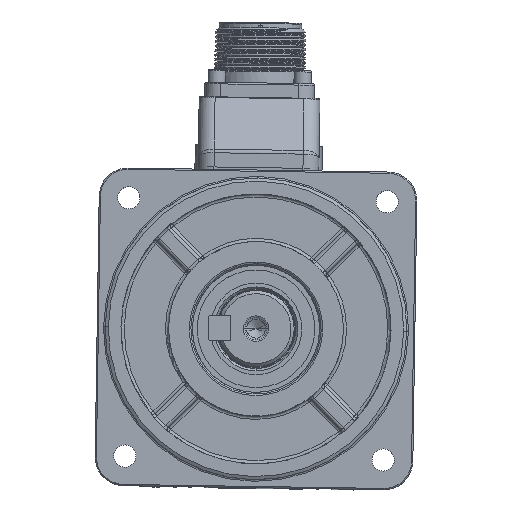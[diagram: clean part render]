
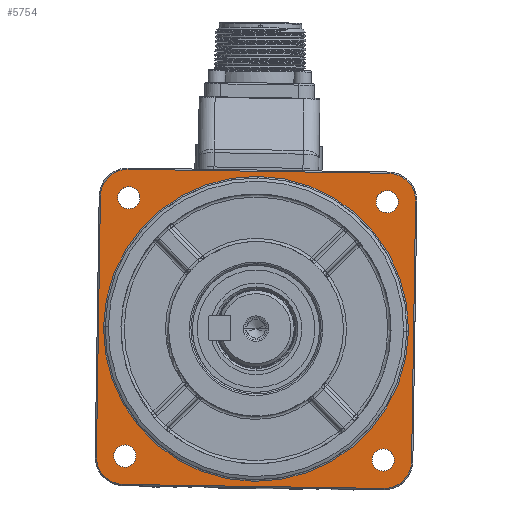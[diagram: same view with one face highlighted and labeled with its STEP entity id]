
A CAD part, top view. The second image highlights one B-rep face of the part: STEP entity #5754.
In plain terms, the highlighted planar face has unit normal (0, 0, 1) as drawn and (0, 1, 0) by its records, which use the part's own axes.
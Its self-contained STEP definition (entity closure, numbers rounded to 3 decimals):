
#150=CARTESIAN_POINT('',(0.,0.,0.));
#151=DIRECTION('',(0.,-1.,0.));
#152=DIRECTION('',(-1.,0.,0.006));
#153=AXIS2_PLACEMENT_3D('',#150,#151,#152);
#170=CARTESIAN_POINT('',(0.,0.,0.));
#171=DIRECTION('',(0.,-1.,0.));
#172=DIRECTION('',(1.,0.,-0.006));
#173=AXIS2_PLACEMENT_3D('',#170,#171,#172);
#175=CARTESIAN_POINT('',(-41.,0.,-41.));
#176=DIRECTION('',(0.,-1.,0.));
#177=DIRECTION('',(-1.,0.,0.));
#178=AXIS2_PLACEMENT_3D('',#175,#176,#177);
#180=CARTESIAN_POINT('',(41.,0.,-41.));
#181=DIRECTION('',(0.,-1.,0.));
#182=DIRECTION('',(0.,0.,-1.));
#183=AXIS2_PLACEMENT_3D('',#180,#181,#182);
#185=CARTESIAN_POINT('',(41.,0.,41.));
#186=DIRECTION('',(0.,-1.,0.));
#187=DIRECTION('',(1.,0.,0.));
#188=AXIS2_PLACEMENT_3D('',#185,#186,#187);
#190=CARTESIAN_POINT('',(-41.,0.,41.));
#191=DIRECTION('',(0.,-1.,0.));
#192=DIRECTION('',(0.,0.,1.));
#193=AXIS2_PLACEMENT_3D('',#190,#191,#192);
#195=CARTESIAN_POINT('',(-40.659,0.,-40.659));
#196=DIRECTION('',(0.,1.,0.));
#197=DIRECTION('',(0.,0.,1.));
#198=AXIS2_PLACEMENT_3D('',#195,#196,#197);
#200=CARTESIAN_POINT('',(-40.659,0.,-40.659));
#201=DIRECTION('',(0.,1.,0.));
#202=DIRECTION('',(0.,0.,-1.));
#203=AXIS2_PLACEMENT_3D('',#200,#201,#202);
#205=CARTESIAN_POINT('',(-40.659,0.,40.659));
#206=DIRECTION('',(0.,1.,0.));
#207=DIRECTION('',(1.,0.,0.));
#208=AXIS2_PLACEMENT_3D('',#205,#206,#207);
#210=CARTESIAN_POINT('',(-40.659,0.,40.659));
#211=DIRECTION('',(0.,1.,0.));
#212=DIRECTION('',(-1.,0.,0.));
#213=AXIS2_PLACEMENT_3D('',#210,#211,#212);
#215=CARTESIAN_POINT('',(40.659,0.,40.659));
#216=DIRECTION('',(0.,1.,0.));
#217=DIRECTION('',(0.,0.,-1.));
#218=AXIS2_PLACEMENT_3D('',#215,#216,#217);
#220=CARTESIAN_POINT('',(40.659,0.,40.659));
#221=DIRECTION('',(0.,1.,0.));
#222=DIRECTION('',(0.,0.,1.));
#223=AXIS2_PLACEMENT_3D('',#220,#221,#222);
#225=CARTESIAN_POINT('',(0.,0.,0.));
#226=DIRECTION('',(0.,1.,0.));
#227=DIRECTION('',(-1.,0.,0.006));
#228=AXIS2_PLACEMENT_3D('',#225,#226,#227);
#230=CARTESIAN_POINT('',(0.,0.,0.));
#231=DIRECTION('',(0.,1.,0.));
#232=DIRECTION('',(1.,0.,-0.006));
#233=AXIS2_PLACEMENT_3D('',#230,#231,#232);
#235=CARTESIAN_POINT('',(40.659,0.,-40.659));
#236=DIRECTION('',(0.,1.,0.));
#237=DIRECTION('',(-1.,0.,0.));
#238=AXIS2_PLACEMENT_3D('',#235,#236,#237);
#240=CARTESIAN_POINT('',(40.659,0.,-40.659));
#241=DIRECTION('',(0.,1.,0.));
#242=DIRECTION('',(1.,0.,0.));
#243=AXIS2_PLACEMENT_3D('',#240,#241,#242);
#254=DIRECTION('',(0.,0.,1.));
#255=VECTOR('',#254,82.);
#256=CARTESIAN_POINT('',(-49.6,0.,
-41.));
#257=LINE('',#256,#255);
#271=DIRECTION('',(1.,0.,0.));
#272=VECTOR('',#271,82.);
#273=CARTESIAN_POINT('',(-41.,0.,
49.6));
#274=LINE('',#273,#272);
#288=DIRECTION('',(0.,0.,-1.));
#289=VECTOR('',#288,82.);
#290=CARTESIAN_POINT('',(49.6,0.,41.));
#291=LINE('',#290,#289);
#305=DIRECTION('',(-1.,0.,0.));
#306=VECTOR('',#305,82.);
#307=CARTESIAN_POINT('',(41.,0.,
-49.6));
#308=LINE('',#307,#306);
#4462=CARTESIAN_POINT('',(48.,0.,0.));
#4463=VERTEX_POINT('',#4462);
#4464=CARTESIAN_POINT('',(-47.999,0.,0.3));
#4465=VERTEX_POINT('',#4464);
#4466=CARTESIAN_POINT('',(-48.,0.,0.));
#4467=VERTEX_POINT('',#4466);
#4468=CARTESIAN_POINT('',(47.999,0.,-0.3));
#4469=VERTEX_POINT('',#4468);
#4470=CARTESIAN_POINT('',(-49.6,0.,-41.));
#4471=CARTESIAN_POINT('',(-41.,0.,-49.6));
#4472=VERTEX_POINT('',#4470);
#4473=VERTEX_POINT('',#4471);
#4474=CARTESIAN_POINT('',(41.,0.,
-49.6));
#4475=VERTEX_POINT('',#4474);
#4476=CARTESIAN_POINT('',(49.6,0.,-41.));
#4477=VERTEX_POINT('',#4476);
#4478=CARTESIAN_POINT('',(49.6,0.,
41.));
#4479=VERTEX_POINT('',#4478);
#4480=CARTESIAN_POINT('',(41.,0.,49.6));
#4481=VERTEX_POINT('',#4480);
#4482=CARTESIAN_POINT('',(-41.,0.,
49.6));
#4483=VERTEX_POINT('',#4482);
#4484=CARTESIAN_POINT('',(-49.6,0.,41.));
#4485=VERTEX_POINT('',#4484);
#4486=CARTESIAN_POINT('',(-40.659,0.,-37.159));
#4487=CARTESIAN_POINT('',(-40.659,0.,-44.159));
#4488=VERTEX_POINT('',#4486);
#4489=VERTEX_POINT('',#4487);
#4490=CARTESIAN_POINT('',(-37.159,0.,40.659));
#4491=CARTESIAN_POINT('',(-44.159,0.,40.659));
#4492=VERTEX_POINT('',#4490);
#4493=VERTEX_POINT('',#4491);
#4494=CARTESIAN_POINT('',(40.659,0.,37.159));
#4495=CARTESIAN_POINT('',(40.659,0.,44.159));
#4496=VERTEX_POINT('',#4494);
#4497=VERTEX_POINT('',#4495);
#4498=CARTESIAN_POINT('',(37.159,0.,-40.659));
#4499=CARTESIAN_POINT('',(44.159,0.,-40.659));
#4500=VERTEX_POINT('',#4498);
#4501=VERTEX_POINT('',#4499);
#5701=CARTESIAN_POINT('',(0.,0.,0.));
#5702=DIRECTION('',(0.,-1.,0.));
#5703=DIRECTION('',(-1.,0.,0.));
#5704=AXIS2_PLACEMENT_3D('',#5701,#5702,#5703);
#5705=PLANE('',#5704);
#5707=ORIENTED_EDGE('',*,*,#5706,.T.);
#5709=ORIENTED_EDGE('',*,*,#5708,.F.);
#5711=ORIENTED_EDGE('',*,*,#5710,.T.);
#5713=ORIENTED_EDGE('',*,*,#5712,.F.);
#5715=ORIENTED_EDGE('',*,*,#5714,.T.);
#5717=ORIENTED_EDGE('',*,*,#5716,.F.);
#5719=ORIENTED_EDGE('',*,*,#5718,.T.);
#5721=ORIENTED_EDGE('',*,*,#5720,.F.);
#5722=EDGE_LOOP('',(#5707,#5709,#5711,#5713,#5715,#5717,#5719,#5721));
#5723=FACE_OUTER_BOUND('',#5722,.F.);
#5725=ORIENTED_EDGE('',*,*,#5724,.T.);
#5727=ORIENTED_EDGE('',*,*,#5726,.T.);
#5728=EDGE_LOOP('',(#5725,#5727));
#5729=FACE_BOUND('',#5728,.F.);
#5731=ORIENTED_EDGE('',*,*,#5730,.T.);
#5733=ORIENTED_EDGE('',*,*,#5732,.T.);
#5734=EDGE_LOOP('',(#5731,#5733));
#5735=FACE_BOUND('',#5734,.F.);
#5737=ORIENTED_EDGE('',*,*,#5736,.T.);
#5739=ORIENTED_EDGE('',*,*,#5738,.T.);
#5740=EDGE_LOOP('',(#5737,#5739));
#5741=FACE_BOUND('',#5740,.F.);
#5742=ORIENTED_EDGE('',*,*,#5678,.F.);
#5743=ORIENTED_EDGE('',*,*,#5676,.T.);
#5744=ORIENTED_EDGE('',*,*,#5695,.F.);
#5745=ORIENTED_EDGE('',*,*,#5693,.T.);
#5746=EDGE_LOOP('',(#5742,#5743,#5744,#5745));
#5747=FACE_BOUND('',#5746,.F.);
#5749=ORIENTED_EDGE('',*,*,#5748,.T.);
#5751=ORIENTED_EDGE('',*,*,#5750,.T.);
#5752=EDGE_LOOP('',(#5749,#5751));
#5753=FACE_BOUND('',#5752,.F.);
#5754=ADVANCED_FACE('',(#5723,#5729,#5735,#5741,#5747,#5753),#5705,.F.);
#154=CIRCLE('',#153,48.);
#174=CIRCLE('',#173,48.);
#179=CIRCLE('',#178,8.6);
#184=CIRCLE('',#183,8.6);
#189=CIRCLE('',#188,8.6);
#194=CIRCLE('',#193,8.6);
#199=CIRCLE('',#198,3.5);
#204=CIRCLE('',#203,3.5);
#209=CIRCLE('',#208,3.5);
#214=CIRCLE('',#213,3.5);
#219=CIRCLE('',#218,3.5);
#224=CIRCLE('',#223,3.5);
#229=CIRCLE('',#228,48.);
#234=CIRCLE('',#233,48.);
#239=CIRCLE('',#238,3.5);
#244=CIRCLE('',#243,3.5);
#5676=EDGE_CURVE('',#4465,#4463,#229,.T.);
#5678=EDGE_CURVE('',#4465,#4467,#154,.T.);
#5693=EDGE_CURVE('',#4469,#4467,#234,.T.);
#5695=EDGE_CURVE('',#4469,#4463,#174,.T.);
#5706=EDGE_CURVE('',#4472,#4473,#179,.T.);
#5708=EDGE_CURVE('',#4475,#4473,#308,.T.);
#5710=EDGE_CURVE('',#4475,#4477,#184,.T.);
#5712=EDGE_CURVE('',#4479,#4477,#291,.T.);
#5714=EDGE_CURVE('',#4479,#4481,#189,.T.);
#5716=EDGE_CURVE('',#4483,#4481,#274,.T.);
#5718=EDGE_CURVE('',#4483,#4485,#194,.T.);
#5720=EDGE_CURVE('',#4472,#4485,#257,.T.);
#5724=EDGE_CURVE('',#4488,#4489,#199,.T.);
#5726=EDGE_CURVE('',#4489,#4488,#204,.T.);
#5730=EDGE_CURVE('',#4492,#4493,#209,.T.);
#5732=EDGE_CURVE('',#4493,#4492,#214,.T.);
#5736=EDGE_CURVE('',#4496,#4497,#219,.T.);
#5738=EDGE_CURVE('',#4497,#4496,#224,.T.);
#5748=EDGE_CURVE('',#4500,#4501,#239,.T.);
#5750=EDGE_CURVE('',#4501,#4500,#244,.T.);
